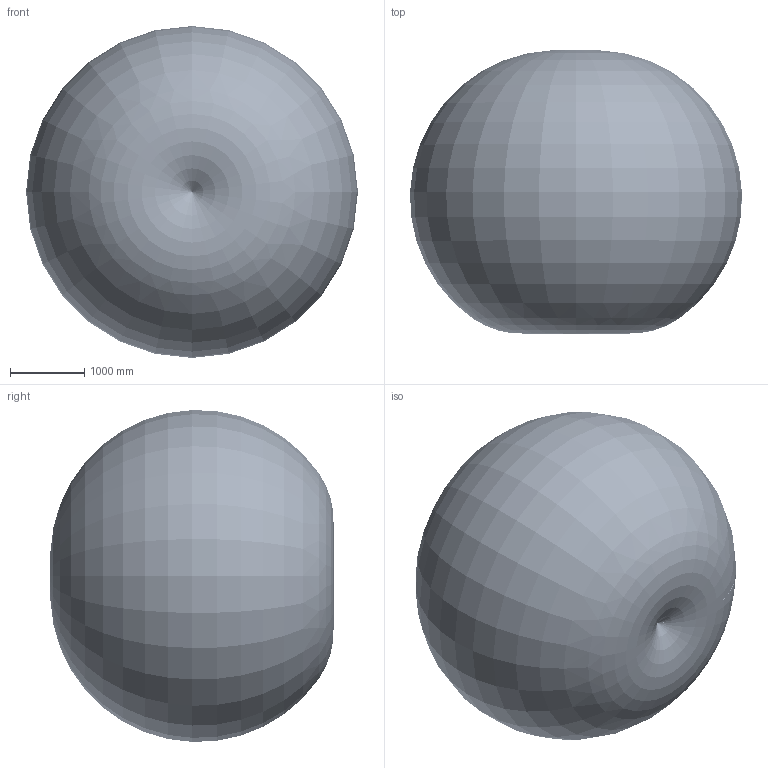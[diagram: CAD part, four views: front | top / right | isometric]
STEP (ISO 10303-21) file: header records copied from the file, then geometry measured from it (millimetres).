
FILE_DESCRIPTION (( 'STEP AP214' ), '1' );
FILE_NAME ('AIR50-2230A 3D model.STP', '2024-02-06T06:35:49', ( 'Windows User' ), ( 'P R C' ), 'SwSTEP 2.0', 'SolidWorks 2011', '' );
FILE_SCHEMA (( 'AUTOMOTIVE_DESIGN' ));
Length unit declared in the file: millimetre
Products named in the file (10): AIR50-2230A-Working plane; AIR50-2230A-Flange; AIR50-2230A-Wrist; AIR50-2230A-Lower-arm; AIR50-2230A-Elbow; AIR50-2230A-Upper-arm; AIR50-2230A-Shoulder; AIR50-2230A-Base; AIR50-2230A 3D model; AIR50-2230A-Working range
Assembly tree (9 placements, depth 2):
  AIR50-2230A 3D model
    AIR50-2230A-Working range
    AIR50-2230A-Wrist
    AIR50-2230A-Elbow
    AIR50-2230A-Upper-arm
    AIR50-2230A-Base
    AIR50-2230A-Flange
    AIR50-2230A-Lower-arm
    AIR50-2230A-Shoulder
    AIR50-2230A-Working plane
Bounding box: 4474.43 x 3816.97 x 4473.12 mm (x, y, z)
Volume: 40810092933.2 mm3; surface area: 91189795.8 mm2
Topology: 128 solids, 369 shells, 21696 faces, 54709 edges, 33673 vertices
Faces by surface type: plane 9586, cylinder 6684, bspline 3351, cone 1536, torus 525, sphere 14
Entity records: 1026455 total; most frequent: CARTESIAN_POINT 447213, ORIENTED_EDGE 107143, DIRECTION 98075, EDGE_CURVE 53578, AXIS2_PLACEMENT_3D 36733, VERTEX_POINT 33667, LINE 24609, VECTOR 24609
